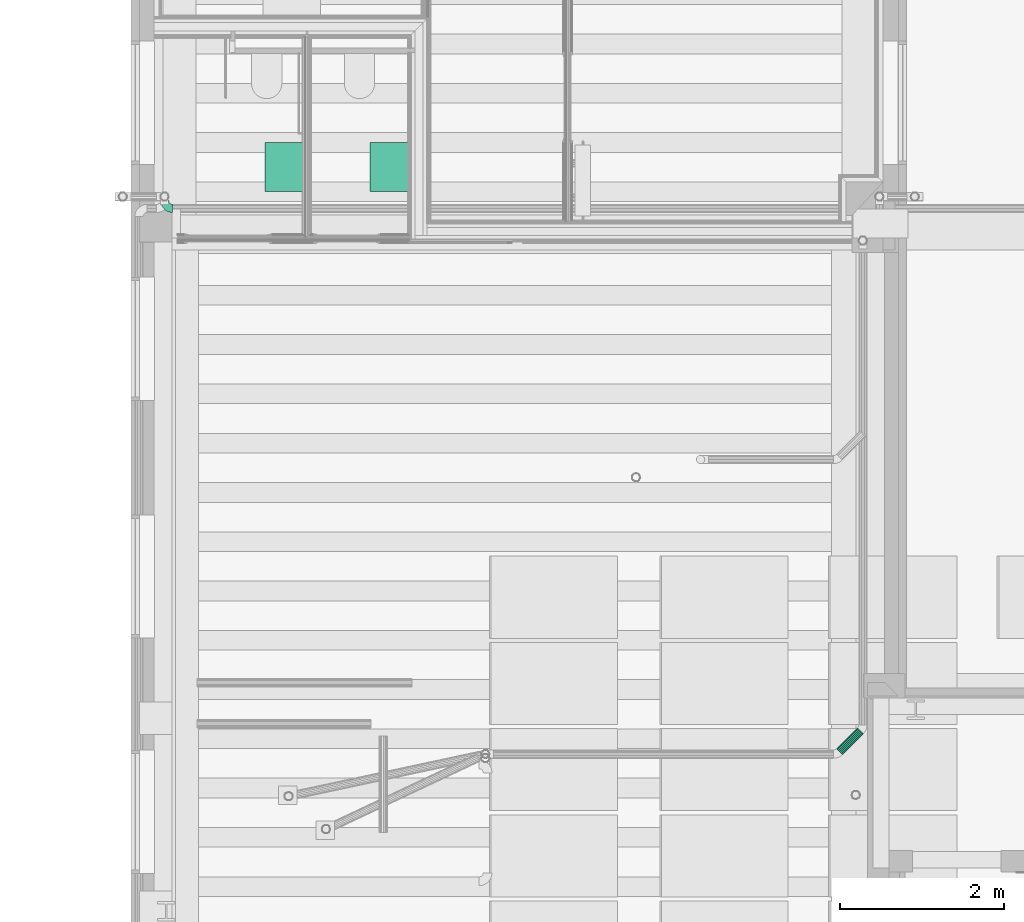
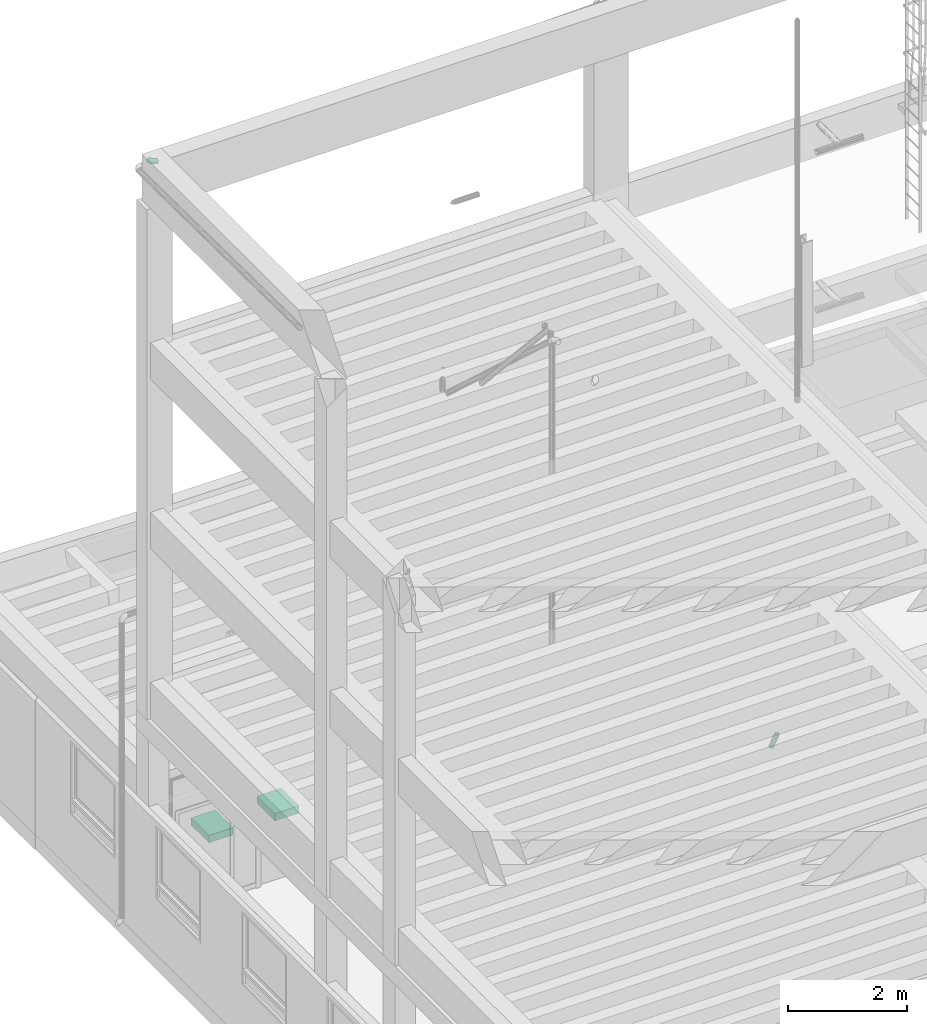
# One storey, part 83 of 108: 2 flow terminals, 1 flow fitting, 1 flow segment.
"""IFC2X3 building model written with IfcOpenShell, lengths in metres."""

from ifc_helpers import new_model, entity, si_unit, converted_unit, derived_unit, money_unit, direction, frame, origin_with_axes, place, context, subcontext, project, spatial, open_shell, faceted_brep, surface_model, material, type_object, element, save


model = new_model("IFC2X3")

# Units and contexts
model_context = context("Model", 3, precision=1e-05, world=origin_with_axes(), true_north=direction((0.0, 1.0)))
body_context = subcontext(model_context, "Body", "Model", "MODEL_VIEW", scale=1.0)
ifc_project = project(units=[si_unit("LENGTHUNIT", "METRE"), si_unit("AREAUNIT", "SQUARE_METRE"), si_unit("VOLUMEUNIT", "CUBIC_METRE"), si_unit("ABSORBEDDOSEUNIT", "GRAY"), si_unit("AMOUNTOFSUBSTANCEUNIT", "MOLE"), si_unit("DOSEEQUIVALENTUNIT", "SIEVERT"), si_unit("ELECTRICCAPACITANCEUNIT", "FARAD"), si_unit("ELECTRICCHARGEUNIT", "COULOMB"), si_unit("ELECTRICCONDUCTANCEUNIT", "SIEMENS"), si_unit("ELECTRICCURRENTUNIT", "AMPERE"), si_unit("ELECTRICRESISTANCEUNIT", "OHM"), si_unit("ELECTRICVOLTAGEUNIT", "VOLT"), si_unit("ENERGYUNIT", "JOULE"), si_unit("FORCEUNIT", "NEWTON"), si_unit("FREQUENCYUNIT", "HERTZ"), si_unit("ILLUMINANCEUNIT", "LUX"), si_unit("INDUCTANCEUNIT", "HENRY"), si_unit("LUMINOUSFLUXUNIT", "LUMEN"), si_unit("LUMINOUSINTENSITYUNIT", "CANDELA"), si_unit("MAGNETICFLUXDENSITYUNIT", "TESLA"), si_unit("MAGNETICFLUXUNIT", "WEBER"), si_unit("MASSUNIT", "GRAM"), converted_unit("PLANEANGLEUNIT", "degree", entity("IfcReal", 0.0174532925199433), si_unit("PLANEANGLEUNIT", "RADIAN"), dimensions=[0, 0, 0, 0, 0, 0, 0]), si_unit("POWERUNIT", "WATT"), si_unit("PRESSUREUNIT", "PASCAL"), si_unit("RADIOACTIVITYUNIT", "BECQUEREL"), si_unit("SOLIDANGLEUNIT", "STERADIAN"), si_unit("THERMODYNAMICTEMPERATUREUNIT", "KELVIN"), si_unit("TIMEUNIT", "SECOND"), derived_unit("ACCELERATIONUNIT", [(si_unit("LENGTHUNIT", "METRE"), 1), (si_unit("TIMEUNIT", "SECOND"), -2)]), derived_unit("ANGULARVELOCITYUNIT", [(converted_unit("PLANEANGLEUNIT", "degree", entity("IfcReal", 0.0174532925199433), si_unit("PLANEANGLEUNIT", "RADIAN"), dimensions=[0, 0, 0, 0, 0, 0, 0]), 1), (si_unit("TIMEUNIT", "SECOND"), -1)]), derived_unit("CURVATUREUNIT", [(converted_unit("PLANEANGLEUNIT", "degree", entity("IfcReal", 0.0174532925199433), si_unit("PLANEANGLEUNIT", "RADIAN"), dimensions=[0, 0, 0, 0, 0, 0, 0]), 1), (si_unit("LENGTHUNIT", "METRE"), -1)]), derived_unit("DYNAMICVISCOSITYUNIT", [(si_unit("PRESSUREUNIT", "PASCAL"), 1), (si_unit("TIMEUNIT", "SECOND"), 1)]), derived_unit("HEATFLUXDENSITYUNIT", [(si_unit("POWERUNIT", "WATT"), 1), (si_unit("LENGTHUNIT", "METRE"), -2)]), derived_unit("HEATINGVALUEUNIT", [(si_unit("ENERGYUNIT", "JOULE"), 1), (si_unit("MASSUNIT", "GRAM"), -1)]), derived_unit("INTEGERCOUNTRATEUNIT", [(si_unit("TIMEUNIT", "SECOND"), -1)]), derived_unit("IONCONCENTRATIONUNIT", [(si_unit("MASSUNIT", "GRAM"), 1), (si_unit("VOLUMEUNIT", "CUBIC_METRE"), -1)]), derived_unit("ISOTHERMALMOISTURECAPACITYUNIT", [(si_unit("VOLUMEUNIT", "CUBIC_METRE"), 1), (si_unit("MASSUNIT", "GRAM"), -1)]), derived_unit("KINEMATICVISCOSITYUNIT", [(si_unit("AREAUNIT", "SQUARE_METRE"), 1), (si_unit("TIMEUNIT", "SECOND"), -1)]), derived_unit("LINEARFORCEUNIT", [(si_unit("FORCEUNIT", "NEWTON"), 1), (si_unit("LENGTHUNIT", "METRE"), -1)]), derived_unit("LINEARMOMENTUNIT", [(si_unit("FORCEUNIT", "NEWTON"), 1), (si_unit("LENGTHUNIT", "METRE"), -1)]), derived_unit("LINEARSTIFFNESSUNIT", [(si_unit("FORCEUNIT", "NEWTON"), 1), (si_unit("LENGTHUNIT", "METRE"), -1)]), derived_unit("LINEARVELOCITYUNIT", [(si_unit("LENGTHUNIT", "METRE"), 1), (si_unit("TIMEUNIT", "SECOND"), -1)]), derived_unit("LUMINOUSINTENSITYDISTRIBUTIONUNIT", [(si_unit("LUMINOUSINTENSITYUNIT", "CANDELA"), 1), (si_unit("LUMINOUSFLUXUNIT", "LUMEN"), -1)]), derived_unit("MASSDENSITYUNIT", [(si_unit("MASSUNIT", "GRAM"), 1), (si_unit("VOLUMEUNIT", "CUBIC_METRE"), -1)]), derived_unit("MASSFLOWRATEUNIT", [(si_unit("MASSUNIT", "GRAM"), 1), (si_unit("TIMEUNIT", "SECOND"), -1)]), derived_unit("MASSPERLENGTHUNIT", [(si_unit("MASSUNIT", "GRAM"), 1), (si_unit("LENGTHUNIT", "METRE"), -1)]), derived_unit("MODULUSOFELASTICITYUNIT", [(si_unit("FORCEUNIT", "NEWTON"), 1), (si_unit("AREAUNIT", "SQUARE_METRE"), -1)]), derived_unit("MODULUSOFLINEARSUBGRADEREACTIONUNIT", [(si_unit("FORCEUNIT", "NEWTON"), 1), (si_unit("LENGTHUNIT", "METRE"), -2)]), derived_unit("MODULUSOFROTATIONALSUBGRADEREACTIONUNIT", [(si_unit("FORCEUNIT", "NEWTON"), 1), (si_unit("LENGTHUNIT", "METRE"), 1)]), derived_unit("MODULUSOFSUBGRADEREACTIONUNIT", [(si_unit("FORCEUNIT", "NEWTON"), 1), (si_unit("VOLUMEUNIT", "CUBIC_METRE"), -1)]), derived_unit("MOISTUREDIFFUSIVITYUNIT", [(si_unit("VOLUMEUNIT", "CUBIC_METRE"), 1), (si_unit("TIMEUNIT", "SECOND"), -1)]), derived_unit("MOLECULARWEIGHTUNIT", [(si_unit("MASSUNIT", "GRAM"), 1), (si_unit("AMOUNTOFSUBSTANCEUNIT", "MOLE"), -1)]), derived_unit("PLANARFORCEUNIT", [(si_unit("FORCEUNIT", "NEWTON"), 1), (si_unit("LENGTHUNIT", "METRE"), -2)]), derived_unit("ROTATIONALFREQUENCYUNIT", [(si_unit("TIMEUNIT", "SECOND"), -1)]), derived_unit("ROTATIONALMASSUNIT", [(si_unit("MASSUNIT", "GRAM"), 1), (si_unit("LENGTHUNIT", "METRE"), 2)]), derived_unit("ROTATIONALSTIFFNESSUNIT", [(si_unit("FORCEUNIT", "NEWTON"), 1), (si_unit("LENGTHUNIT", "METRE"), 1), (converted_unit("PLANEANGLEUNIT", "degree", entity("IfcReal", 0.0174532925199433), si_unit("PLANEANGLEUNIT", "RADIAN"), dimensions=[0, 0, 0, 0, 0, 0, 0]), -1)]), derived_unit("SECTIONAREAINTEGRALUNIT", [(si_unit("LENGTHUNIT", "METRE"), 5)]), derived_unit("SECTIONMODULUSUNIT", [(si_unit("LENGTHUNIT", "METRE"), 3)]), derived_unit("SHEARMODULUSUNIT", [(si_unit("FORCEUNIT", "NEWTON"), 1), (si_unit("AREAUNIT", "SQUARE_METRE"), -1)]), derived_unit("SOUNDPOWERUNIT", [(si_unit("ENERGYUNIT", "JOULE"), 1), (si_unit("TIMEUNIT", "SECOND"), -1)]), derived_unit("SPECIFICHEATCAPACITYUNIT", [(si_unit("FORCEUNIT", "NEWTON"), 1), (si_unit("MASSUNIT", "GRAM"), -1), (si_unit("THERMODYNAMICTEMPERATUREUNIT", "KELVIN"), -1)]), derived_unit("TEMPERATUREGRADIENTUNIT", [(si_unit("THERMODYNAMICTEMPERATUREUNIT", "KELVIN"), 1), (si_unit("LENGTHUNIT", "METRE"), -1)]), derived_unit("THERMALADMITTANCEUNIT", [(si_unit("POWERUNIT", "WATT"), 1), (si_unit("AREAUNIT", "SQUARE_METRE"), -1), (si_unit("THERMODYNAMICTEMPERATUREUNIT", "KELVIN"), -1)]), derived_unit("THERMALCONDUCTANCEUNIT", [(si_unit("POWERUNIT", "WATT"), 1), (si_unit("LENGTHUNIT", "METRE"), -1), (si_unit("THERMODYNAMICTEMPERATUREUNIT", "KELVIN"), -1)]), derived_unit("THERMALEXPANSIONCOEFFICIENTUNIT", [(si_unit("THERMODYNAMICTEMPERATUREUNIT", "KELVIN"), -1)]), derived_unit("THERMALRESISTANCEUNIT", [(si_unit("AREAUNIT", "SQUARE_METRE"), 1), (si_unit("POWERUNIT", "WATT"), -1)]), derived_unit("THERMALTRANSMITTANCEUNIT", [(si_unit("POWERUNIT", "WATT"), 1), (si_unit("AREAUNIT", "SQUARE_METRE"), -1), (si_unit("THERMODYNAMICTEMPERATUREUNIT", "KELVIN"), -1)]), derived_unit("TORQUEUNIT", [(si_unit("FORCEUNIT", "NEWTON"), 1), (si_unit("LENGTHUNIT", "METRE"), 1)]), derived_unit("VAPORPERMEABILITYUNIT", [(si_unit("MASSUNIT", "GRAM"), 1), (si_unit("TIMEUNIT", "SECOND"), -1)]), derived_unit("VOLUMETRICFLOWRATEUNIT", [(si_unit("VOLUMEUNIT", "CUBIC_METRE"), 1), (si_unit("TIMEUNIT", "SECOND"), -1)]), derived_unit("WARPINGCONSTANTUNIT", [(si_unit("LENGTHUNIT", "METRE"), 6)]), derived_unit("WARPINGMOMENTUNIT", [(si_unit("FORCEUNIT", "NEWTON"), 1), (si_unit("LENGTHUNIT", "METRE"), 2)]), money_unit("GBP")], contexts=[model_context])

# Site, building, storey, space
site_placement = place(None, origin_with_axes())
site = spatial("IfcSite", under=ifc_project, at=site_placement, Name="Site", CompositionType="ELEMENT")
building_placement = place(site_placement, origin_with_axes())
building = spatial("IfcBuilding", under=site, at=building_placement, Name="Building01", CompositionType="ELEMENT")
storey_placement = place(building_placement, origin_with_axes())
storey = spatial("IfcBuildingStorey", under=building, at=storey_placement, Name="GF", CompositionType="ELEMENT", Elevation=0.0)
space_1_placement = place(storey_placement, frame((3.380525, 16.69365, 0.216987), z_axis=(0.0, 0.0, 1.0), x_axis=(-1.0, 0.0, 0.0)))
space_1 = spatial("IfcSpace", under=storey, at=space_1_placement, Name="0", CompositionType="ELEMENT", InteriorOrExteriorSpace="NOTDEFINED")

# Flow segment
ifc_material = material(Name="M_BSUK_ColdWater")
pipe_segment_type = type_object("IfcPipeSegmentType", Name="M-BmpStraightpipe-DefaultPipe", PredefinedType="RIGIDSEGMENT")
flow_segment_placement = place(storey_placement, frame((8.624542, 8.192454, 4.622748), z_axis=(0.00883814, 0.00883814, 0.99992188), x_axis=(0.70705154, 0.70705154, -0.01249902)))
element("IfcFlowSegment", 1, at=flow_segment_placement, inside=space_1, type_object=pipe_segment_type, material=ifc_material, Name="M-BmpStraightpipe-DefaultPipe", ObjectType="M-BmpStraightpipe-DefaultPipe", context=body_context, shape_type="Brep", body=[
    faceted_brep([(0.36222, 0.0, -0.05), (0.0, 0.0, -0.05), (0.0, 0.019134, -0.046194), (0.36222, 0.019134, -0.046194), (0.0, 0.035355, -0.035355), (0.36222, 0.035355, -0.035355), (0.0, 0.046194, -0.019134), (0.36222, 0.046194, -0.019134), (0.0, 0.05, 0.0), (0.36222, 0.05, 0.0), (0.0, 0.046194, 0.019134), (0.36222, 0.046194, 0.019134), (0.0, 0.035355, 0.035355), (0.36222, 0.035355, 0.035355), (0.0, 0.019134, 0.046194), (0.36222, 0.019134, 0.046194), (0.0, 0.0, 0.05), (0.36222, 0.0, 0.05), (0.0, -0.019134, 0.046194), (0.36222, -0.019134, 0.046194), (0.0, -0.035355, 0.035355), (0.36222, -0.035355, 0.035355), (0.0, -0.046194, 0.019134), (0.36222, -0.046194, 0.019134), (0.0, -0.05, 0.0), (0.36222, -0.05, 0.0), (0.0, -0.046194, -0.019134), (0.36222, -0.046194, -0.019134), (0.0, -0.035355, -0.035355), (0.36222, -0.035355, -0.035355), (0.0, -0.019134, -0.046194), (0.36222, -0.019134, -0.046194)], [[[0, 1, 2, 3]], [[3, 2, 4, 5]], [[5, 4, 6, 7]], [[7, 6, 8, 9]], [[9, 8, 10, 11]], [[11, 10, 12, 13]], [[13, 12, 14, 15]], [[15, 14, 16, 17]], [[17, 16, 18, 19]], [[19, 18, 20, 21]], [[21, 20, 22, 23]], [[23, 22, 24, 25]], [[25, 24, 26, 27]], [[27, 26, 28, 29]], [[29, 28, 30, 31]], [[31, 30, 1, 0]]]),
])

# Flow fitting
pipe_fitting_type = type_object("IfcPipeFittingType", Name="M-BmpElbow-DefaultElbow", PredefinedType="BEND")
flow_fitting_placement = place(storey_placement, frame((0.408496, 14.905103, 15.475211), z_axis=(-1.0, 0.0, 0.0), x_axis=(0.0, 0.99414865, -0.10802068)))
element("IfcFlowFitting", 2, at=flow_fitting_placement, inside=storey, type_object=pipe_fitting_type, material=ifc_material, Name="M-BmpElbow-DefaultElbow", ObjectType="M-BmpElbow-DefaultElbow", context=body_context, shape_type="SurfaceModel", body=[
    surface_model("IfcShellBasedSurfaceModel", [(-0.008009, -0.01349, -0.048768), (0.0, -0.01349, -0.048146), (0.0, 0.0, -0.05), (-0.007723, 0.0, -0.0506), (-0.015826, -0.01349, -0.05062), (-0.015261, 0.0, -0.052386), (-0.023264, -0.01349, -0.053657), (-0.022432, 0.0, -0.055314), (-0.030143, -0.01349, -0.057807), (-0.029065, 0.0, -0.059315), (-0.036298, -0.01349, -0.062969), (-0.035, 0.0, -0.064293), (-0.041582, -0.01349, -0.06902), (-0.040095, 0.0, -0.070127), (-0.045868, -0.01349, -0.075814), (-0.044228, 0.0, -0.076679), (-0.049054, -0.01349, -0.083189), (-0.0473, 0.0, -0.08379), (-0.051061, -0.01349, -0.090968), (-0.049236, 0.0, -0.091291), (-0.051844, -0.01349, -0.098963), (-0.04999, 0.0, -0.099), (-0.008847, -0.025979, -0.043408), (0.0, -0.025979, -0.042721), (-0.017482, -0.025979, -0.045454), (-0.025697, -0.025979, -0.048809), (-0.033296, -0.025979, -0.053392), (-0.040095, -0.025979, -0.059095), (-0.045932, -0.025979, -0.065779), (-0.050667, -0.025979, -0.073284), (-0.054185, -0.025979, -0.081431), (-0.056403, -0.025979, -0.090023), (-0.057268, -0.025979, -0.098855), (-0.010175, -0.036542, -0.034918), (0.0, -0.036542, -0.034128), (-0.020105, -0.036542, -0.037271), (-0.029553, -0.036542, -0.041129), (-0.038291, -0.036542, -0.0464), (-0.046111, -0.036542, -0.052958), (-0.052823, -0.036542, -0.060645), (-0.058268, -0.036542, -0.069276), (-0.062315, -0.036542, -0.078645), (-0.064865, -0.036542, -0.088526), (-0.065859, -0.036542, -0.098683), (-0.011893, -0.044394, -0.023927), (0.0, -0.044394, -0.023003), (-0.0235, -0.044394, -0.026677), (-0.034544, -0.044394, -0.031187), (-0.044758, -0.044394, -0.037348), (-0.053898, -0.044394, -0.045013), (-0.061744, -0.044394, -0.053998), (-0.068109, -0.044394, -0.064087), (-0.072838, -0.044394, -0.075038), (-0.07582, -0.044394, -0.086588), (-0.076981, -0.044394, -0.09846), (-0.013875, -0.048954, -0.011251), (0.0, -0.048954, -0.010173), (-0.027416, -0.048954, -0.014459), (-0.0403, -0.048954, -0.01972), (-0.052216, -0.048954, -0.026908), (-0.062879, -0.048954, -0.035851), (-0.072033, -0.048954, -0.046333), (-0.079458, -0.048954, -0.058103), (-0.084976, -0.048954, -0.070879), (-0.088454, -0.048954, -0.084353), (-0.089809, -0.048954, -0.098204), (-0.015973, -0.049883, 0.002171), (0.0, -0.049883, 0.003412), (-0.031562, -0.049883, -0.001522), (-0.046394, -0.049883, -0.007579), (-0.060113, -0.049883, -0.015854), (-0.072389, -0.049883, -0.026149), (-0.082927, -0.049883, -0.038216), (-0.091475, -0.049883, -0.051767), (-0.097827, -0.049883, -0.066475), (-0.101831, -0.049883, -0.081987), (-0.103391, -0.049883, -0.097932), (-0.018032, -0.047113, 0.015343), (0.0, -0.047113, 0.016744), (-0.035632, -0.047113, 0.011174), (-0.052376, -0.047113, 0.004336), (-0.067863, -0.047113, -0.005006), (-0.081721, -0.047113, -0.016628), (-0.093618, -0.047113, -0.030251), (-0.103268, -0.047113, -0.045548), (-0.110439, -0.047113, -0.062153), (-0.114959, -0.047113, -0.079665), (-0.116721, -0.047113, -0.097665), (-0.0199, -0.040848, 0.027288), (0.0, -0.040848, 0.028834), (-0.039322, -0.040848, 0.022687), (-0.0578, -0.040848, 0.015141), (-0.074891, -0.040848, 0.004831), (-0.090184, -0.040848, -0.007994), (-0.103313, -0.040848, -0.023028), (-0.113962, -0.040848, -0.039909), (-0.121876, -0.040848, -0.058233), (-0.126865, -0.040848, -0.077559), (-0.128808, -0.040848, -0.097424), (-0.021437, -0.031554, 0.03712), (0.0, -0.031554, 0.038786), (-0.042359, -0.031554, 0.032163), (-0.062264, -0.031554, 0.024035), (-0.080675, -0.031554, 0.012929), (-0.09715, -0.031554, -0.000887), (-0.111293, -0.031554, -0.017083), (-0.122765, -0.031554, -0.035268), (-0.13129, -0.031554, -0.055007), (-0.136664, -0.031554, -0.075826), (-0.138758, -0.031554, -0.097225), (-0.022529, -0.01992, 0.04411), (0.0, -0.01992, 0.045861), (-0.044518, -0.01992, 0.038901), (-0.065438, -0.01992, 0.030358), (-0.084788, -0.01992, 0.018686), (-0.102103, -0.01992, 0.004165), (-0.116966, -0.01992, -0.012856), (-0.129023, -0.01992, -0.031968), (-0.137983, -0.01992, -0.052713), (-0.143631, -0.01992, -0.074593), (-0.145831, -0.01992, -0.097083), (-0.023097, -0.006808, 0.04774), (0.0, -0.006808, 0.049534), (-0.045639, -0.006808, 0.042399), (-0.067087, -0.006808, 0.033641), (-0.086924, -0.006808, 0.021675), (-0.104674, -0.006808, 0.006789), (-0.119912, -0.006808, -0.010661), (-0.132273, -0.006808, -0.030254), (-0.141458, -0.006808, -0.051522), (-0.147248, -0.006808, -0.073953), (-0.149504, -0.006808, -0.09701), (-0.023097, 0.006808, 0.04774), (0.0, 0.006808, 0.049534), (-0.045639, 0.006808, 0.042399), (-0.067087, 0.006808, 0.033641), (-0.086924, 0.006808, 0.021675), (-0.104674, 0.006808, 0.006789), (-0.119912, 0.006808, -0.010661), (-0.132273, 0.006808, -0.030254), (-0.141458, 0.006808, -0.051522), (-0.147248, 0.006808, -0.073953), (-0.149504, 0.006808, -0.09701), (-0.022529, 0.01992, 0.04411), (0.0, 0.01992, 0.045861), (-0.044518, 0.01992, 0.038901), (-0.065438, 0.01992, 0.030358), (-0.084788, 0.01992, 0.018686), (-0.102103, 0.01992, 0.004165), (-0.116966, 0.01992, -0.012856), (-0.129023, 0.01992, -0.031968), (-0.137983, 0.01992, -0.052713), (-0.143631, 0.01992, -0.074593), (-0.145831, 0.01992, -0.097083), (-0.021437, 0.031554, 0.03712), (0.0, 0.031554, 0.038786), (-0.042359, 0.031554, 0.032163), (-0.062264, 0.031554, 0.024035), (-0.080675, 0.031554, 0.012929), (-0.09715, 0.031554, -0.000887), (-0.111293, 0.031554, -0.017083), (-0.122765, 0.031554, -0.035268), (-0.13129, 0.031554, -0.055007), (-0.136664, 0.031554, -0.075826), (-0.138758, 0.031554, -0.097225), (-0.0199, 0.040848, 0.027288), (0.0, 0.040848, 0.028834), (-0.039322, 0.040848, 0.022687), (-0.0578, 0.040848, 0.015141), (-0.074891, 0.040848, 0.004831), (-0.090184, 0.040848, -0.007994), (-0.103313, 0.040848, -0.023028), (-0.113962, 0.040848, -0.039909), (-0.121876, 0.040848, -0.058233), (-0.126865, 0.040848, -0.077559), (-0.128808, 0.040848, -0.097424), (-0.018032, 0.047113, 0.015343), (0.0, 0.047113, 0.016744), (-0.035632, 0.047113, 0.011174), (-0.052376, 0.047113, 0.004336), (-0.067863, 0.047113, -0.005006), (-0.081721, 0.047113, -0.016628), (-0.093618, 0.047113, -0.030251), (-0.103268, 0.047113, -0.045548), (-0.110439, 0.047113, -0.062153), (-0.114959, 0.047113, -0.079665), (-0.116721, 0.047113, -0.097665), (-0.015973, 0.049883, 0.002171), (0.0, 0.049883, 0.003412), (-0.031562, 0.049883, -0.001522), (-0.046394, 0.049883, -0.007579), (-0.060113, 0.049883, -0.015854), (-0.072389, 0.049883, -0.026149), (-0.082927, 0.049883, -0.038216), (-0.091475, 0.049883, -0.051767), (-0.097827, 0.049883, -0.066475), (-0.101831, 0.049883, -0.081987), (-0.103391, 0.049883, -0.097932), (-0.013875, 0.048954, -0.011251), (0.0, 0.048954, -0.010173), (-0.027416, 0.048954, -0.014459), (-0.0403, 0.048954, -0.01972), (-0.052216, 0.048954, -0.026908), (-0.062879, 0.048954, -0.035851), (-0.072033, 0.048954, -0.046333), (-0.079458, 0.048954, -0.058103), (-0.084976, 0.048954, -0.070879), (-0.088454, 0.048954, -0.084353), (-0.089809, 0.048954, -0.098204), (-0.011893, 0.044394, -0.023927), (0.0, 0.044394, -0.023003), (-0.0235, 0.044394, -0.026677), (-0.034544, 0.044394, -0.031187), (-0.044758, 0.044394, -0.037348), (-0.053898, 0.044394, -0.045013), (-0.061744, 0.044394, -0.053998), (-0.068109, 0.044394, -0.064087), (-0.072838, 0.044394, -0.075038), (-0.07582, 0.044394, -0.086588), (-0.076981, 0.044394, -0.09846), (-0.010175, 0.036542, -0.034918), (0.0, 0.036542, -0.034128), (-0.020105, 0.036542, -0.037271), (-0.029553, 0.036542, -0.041129), (-0.038291, 0.036542, -0.0464), (-0.046111, 0.036542, -0.052958), (-0.052823, 0.036542, -0.060645), (-0.058268, 0.036542, -0.069276), (-0.062315, 0.036542, -0.078645), (-0.064865, 0.036542, -0.088526), (-0.065859, 0.036542, -0.098683), (-0.008847, 0.025979, -0.043408), (0.0, 0.025979, -0.042721), (-0.017482, 0.025979, -0.045454), (-0.025697, 0.025979, -0.048809), (-0.033296, 0.025979, -0.053392), (-0.040095, 0.025979, -0.059095), (-0.045932, 0.025979, -0.065779), (-0.050667, 0.025979, -0.073284), (-0.054185, 0.025979, -0.081431), (-0.056403, 0.025979, -0.090023), (-0.057268, 0.025979, -0.098855), (-0.008009, 0.01349, -0.048768), (0.0, 0.01349, -0.048146), (-0.015826, 0.01349, -0.05062), (-0.023264, 0.01349, -0.053657), (-0.030143, 0.01349, -0.057807), (-0.036298, 0.01349, -0.062969), (-0.041582, 0.01349, -0.06902), (-0.045868, 0.01349, -0.075814), (-0.049054, 0.01349, -0.083189), (-0.051061, 0.01349, -0.090968), (-0.051844, 0.01349, -0.098963)], [open_shell([[[0, 1, 2, 3]], [[4, 0, 3, 5]], [[6, 4, 5, 7]], [[8, 6, 7, 9]], [[10, 8, 9, 11]], [[12, 10, 11, 13]], [[14, 12, 13, 15]], [[16, 14, 15, 17]], [[18, 16, 17, 19]], [[20, 18, 19, 21]], [[22, 23, 1, 0]], [[24, 22, 0, 4]], [[25, 24, 4, 6]], [[26, 25, 6, 8]], [[27, 26, 8, 10]], [[28, 27, 10, 12]], [[29, 28, 12, 14]], [[30, 29, 14, 16]], [[31, 30, 16, 18]], [[32, 31, 18, 20]], [[33, 34, 23, 22]], [[35, 33, 22, 24]], [[36, 35, 24, 25]], [[37, 36, 25, 26]], [[38, 37, 26, 27]], [[39, 38, 27, 28]], [[40, 39, 28, 29]], [[41, 40, 29, 30]], [[42, 41, 30, 31]], [[43, 42, 31, 32]], [[44, 45, 34, 33]], [[46, 44, 33, 35]], [[47, 46, 35, 36]], [[48, 47, 36, 37]], [[49, 48, 37, 38]], [[50, 49, 38, 39]], [[51, 50, 39, 40]], [[52, 51, 40, 41]], [[53, 52, 41, 42]], [[54, 53, 42, 43]], [[55, 56, 45, 44]], [[57, 55, 44, 46]], [[58, 57, 46, 47]], [[59, 58, 47, 48]], [[60, 59, 48, 49]], [[61, 60, 49, 50]], [[62, 61, 50, 51]], [[63, 62, 51, 52]], [[64, 63, 52, 53]], [[65, 64, 53, 54]], [[66, 67, 56, 55]], [[68, 66, 55, 57]], [[69, 68, 57, 58]], [[70, 69, 58, 59]], [[71, 70, 59, 60]], [[72, 71, 60, 61]], [[73, 72, 61, 62]], [[74, 73, 62, 63]], [[75, 74, 63, 64]], [[76, 75, 64, 65]], [[77, 78, 67, 66]], [[79, 77, 66, 68]], [[80, 79, 68, 69]], [[81, 80, 69, 70]], [[82, 81, 70, 71]], [[83, 82, 71, 72]], [[84, 83, 72, 73]], [[85, 84, 73, 74]], [[86, 85, 74, 75]], [[87, 86, 75, 76]], [[88, 89, 78, 77]], [[90, 88, 77, 79]], [[91, 90, 79, 80]], [[92, 91, 80, 81]], [[93, 92, 81, 82]], [[94, 93, 82, 83]], [[95, 94, 83, 84]], [[96, 95, 84, 85]], [[97, 96, 85, 86]], [[98, 97, 86, 87]], [[99, 100, 89, 88]], [[101, 99, 88, 90]], [[102, 101, 90, 91]], [[103, 102, 91, 92]], [[104, 103, 92, 93]], [[105, 104, 93, 94]], [[106, 105, 94, 95]], [[107, 106, 95, 96]], [[108, 107, 96, 97]], [[109, 108, 97, 98]], [[110, 111, 100, 99]], [[112, 110, 99, 101]], [[113, 112, 101, 102]], [[114, 113, 102, 103]], [[115, 114, 103, 104]], [[116, 115, 104, 105]], [[117, 116, 105, 106]], [[118, 117, 106, 107]], [[119, 118, 107, 108]], [[120, 119, 108, 109]], [[121, 122, 111, 110]], [[123, 121, 110, 112]], [[124, 123, 112, 113]], [[125, 124, 113, 114]], [[126, 125, 114, 115]], [[127, 126, 115, 116]], [[128, 127, 116, 117]], [[129, 128, 117, 118]], [[130, 129, 118, 119]], [[131, 130, 119, 120]], [[132, 133, 122, 121]], [[134, 132, 121, 123]], [[135, 134, 123, 124]], [[136, 135, 124, 125]], [[137, 136, 125, 126]], [[138, 137, 126, 127]], [[139, 138, 127, 128]], [[140, 139, 128, 129]], [[141, 140, 129, 130]], [[142, 141, 130, 131]], [[143, 144, 133, 132]], [[145, 143, 132, 134]], [[146, 145, 134, 135]], [[147, 146, 135, 136]], [[148, 147, 136, 137]], [[149, 148, 137, 138]], [[150, 149, 138, 139]], [[151, 150, 139, 140]], [[152, 151, 140, 141]], [[153, 152, 141, 142]], [[154, 155, 144, 143]], [[156, 154, 143, 145]], [[157, 156, 145, 146]], [[158, 157, 146, 147]], [[159, 158, 147, 148]], [[160, 159, 148, 149]], [[161, 160, 149, 150]], [[162, 161, 150, 151]], [[163, 162, 151, 152]], [[164, 163, 152, 153]], [[165, 166, 155, 154]], [[167, 165, 154, 156]], [[168, 167, 156, 157]], [[169, 168, 157, 158]], [[170, 169, 158, 159]], [[171, 170, 159, 160]], [[172, 171, 160, 161]], [[173, 172, 161, 162]], [[174, 173, 162, 163]], [[175, 174, 163, 164]], [[176, 177, 166, 165]], [[178, 176, 165, 167]], [[179, 178, 167, 168]], [[180, 179, 168, 169]], [[181, 180, 169, 170]], [[182, 181, 170, 171]], [[183, 182, 171, 172]], [[184, 183, 172, 173]], [[185, 184, 173, 174]], [[186, 185, 174, 175]], [[187, 188, 177, 176]], [[189, 187, 176, 178]], [[190, 189, 178, 179]], [[191, 190, 179, 180]], [[192, 191, 180, 181]], [[193, 192, 181, 182]], [[194, 193, 182, 183]], [[195, 194, 183, 184]], [[196, 195, 184, 185]], [[197, 196, 185, 186]], [[198, 199, 188, 187]], [[200, 198, 187, 189]], [[201, 200, 189, 190]], [[202, 201, 190, 191]], [[203, 202, 191, 192]], [[204, 203, 192, 193]], [[205, 204, 193, 194]], [[206, 205, 194, 195]], [[207, 206, 195, 196]], [[208, 207, 196, 197]], [[209, 210, 199, 198]], [[211, 209, 198, 200]], [[212, 211, 200, 201]], [[213, 212, 201, 202]], [[214, 213, 202, 203]], [[215, 214, 203, 204]], [[216, 215, 204, 205]], [[217, 216, 205, 206]], [[218, 217, 206, 207]], [[219, 218, 207, 208]], [[220, 221, 210, 209]], [[222, 220, 209, 211]], [[223, 222, 211, 212]], [[224, 223, 212, 213]], [[225, 224, 213, 214]], [[226, 225, 214, 215]], [[227, 226, 215, 216]], [[228, 227, 216, 217]], [[229, 228, 217, 218]], [[230, 229, 218, 219]], [[231, 232, 221, 220]], [[233, 231, 220, 222]], [[234, 233, 222, 223]], [[235, 234, 223, 224]], [[236, 235, 224, 225]], [[237, 236, 225, 226]], [[238, 237, 226, 227]], [[239, 238, 227, 228]], [[240, 239, 228, 229]], [[241, 240, 229, 230]], [[242, 243, 232, 231]], [[244, 242, 231, 233]], [[245, 244, 233, 234]], [[246, 245, 234, 235]], [[247, 246, 235, 236]], [[248, 247, 236, 237]], [[249, 248, 237, 238]], [[250, 249, 238, 239]], [[251, 250, 239, 240]], [[252, 251, 240, 241]], [[3, 2, 243, 242]], [[5, 3, 242, 244]], [[7, 5, 244, 245]], [[9, 7, 245, 246]], [[11, 9, 246, 247]], [[13, 11, 247, 248]], [[15, 13, 248, 249]], [[17, 15, 249, 250]], [[19, 17, 250, 251]], [[21, 19, 251, 252]]])]),
])

# Space
space_2_placement = place(storey_placement, frame((2.180525, 16.693646, 0.217025), z_axis=(0.0, 0.0, 1.0), x_axis=(0.0, -1.0, 0.0)))
space_2 = spatial("IfcSpace", under=storey, at=space_2_placement, Name="M", CompositionType="ELEMENT", InteriorOrExteriorSpace="NOTDEFINED")

# Flow terminals
sanitary_terminal_type = type_object("IfcSanitaryTerminalType", Name="SHE_A-Sink_47x60", PredefinedType="NOTDEFINED")
flow_terminal_1_placement = place(storey_placement, frame((3.145525, 15.310634, 1.022999), z_axis=(0.0, 0.0, 1.0), x_axis=(1.0, 0.0, 0.0)))
element("IfcFlowTerminal", 3, at=flow_terminal_1_placement, inside=space_2, type_object=sanitary_terminal_type, Name="00", ObjectType="SHE_A-Sink_47x60", context=body_context, shape_type="Brep", body=[
    faceted_brep([(-0.235, 0.3, -0.075), (-0.235, 0.3, 0.075), (0.235, 0.3, 0.075), (0.235, 0.3, -0.075), (-0.235, -0.3, -0.075), (-0.235, -0.3, 0.075), (0.235, -0.3, -0.075), (0.235, -0.3, 0.075)], [[[0, 1, 2, 3]], [[4, 5, 1, 0]], [[6, 7, 5, 4]], [[3, 2, 7, 6]], [[1, 5, 7, 2]], [[3, 6, 4, 0]]]),
])
flow_terminal_2_placement = place(storey_placement, frame((1.865525, 15.310634, 1.022999), z_axis=(0.0, 0.0, 1.0), x_axis=(1.0, 0.0, 0.0)))
element("IfcFlowTerminal", 4, at=flow_terminal_2_placement, inside=space_1, type_object=sanitary_terminal_type, Name="00", ObjectType="SHE_A-Sink_47x60", context=body_context, shape_type="Brep", body=[
    faceted_brep([(-0.235, 0.3, -0.075), (-0.235, 0.3, 0.075), (0.235, 0.3, 0.075), (0.235, 0.3, -0.075), (-0.235, -0.3, -0.075), (-0.235, -0.3, 0.075), (0.235, -0.3, -0.075), (0.235, -0.3, 0.075)], [[[0, 1, 2, 3]], [[4, 5, 1, 0]], [[6, 7, 5, 4]], [[3, 2, 7, 6]], [[1, 5, 7, 2]], [[3, 6, 4, 0]]]),
])

save(model, "model.ifc")
